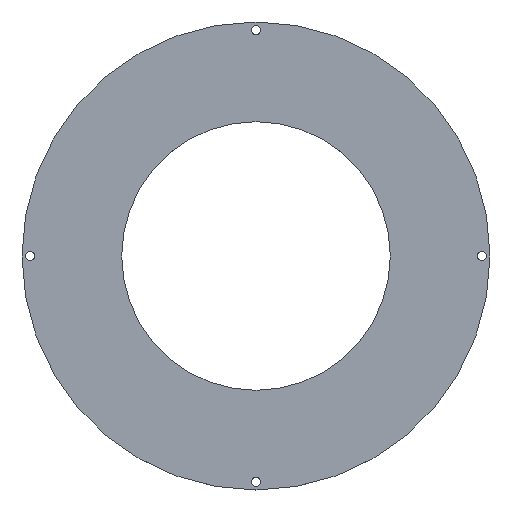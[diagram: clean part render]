
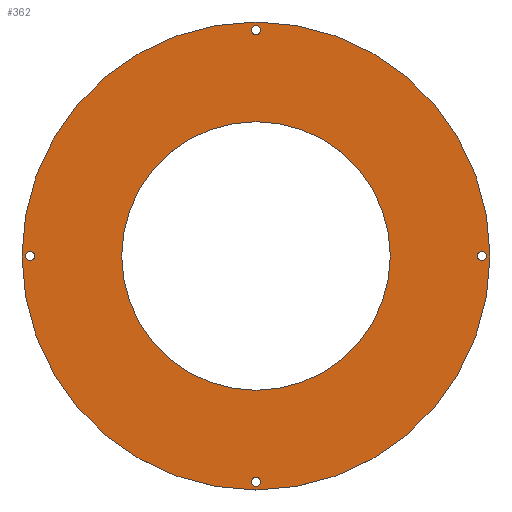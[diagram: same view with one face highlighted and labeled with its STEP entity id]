
A CAD part, top view. The second image highlights one B-rep face of the part: STEP entity #362.
In plain terms, the highlighted planar face has unit normal (0, 0, 1).
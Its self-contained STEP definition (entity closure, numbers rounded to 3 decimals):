
#6 = VERTEX_POINT ( 'NONE', #246 ) ;
#8 = AXIS2_PLACEMENT_3D ( 'NONE', #257, #71, #425 ) ;
#15 = EDGE_CURVE ( 'NONE', #6, #379, #255, .T. ) ;
#16 = CARTESIAN_POINT ( 'NONE',  ( 57.5, 0., 2. ) ) ;
#23 = EDGE_CURVE ( 'NONE', #191, #40, #437, .T. ) ;
#24 = DIRECTION ( 'NONE',  ( 0., -1., 0. ) ) ;
#38 = AXIS2_PLACEMENT_3D ( 'NONE', #494, #97, #250 ) ;
#40 = VERTEX_POINT ( 'NONE', #16 ) ;
#46 = AXIS2_PLACEMENT_3D ( 'NONE', #127, #208, #236 ) ;
#47 = AXIS2_PLACEMENT_3D ( 'NONE', #74, #496, #114 ) ;
#49 = EDGE_LOOP ( 'NONE', ( #492, #462 ) ) ;
#51 = VERTEX_POINT ( 'NONE', #119 ) ;
#53 = DIRECTION ( 'NONE',  ( 0., 1., 0. ) ) ;
#55 = AXIS2_PLACEMENT_3D ( 'NONE', #341, #210, #482 ) ;
#60 = CARTESIAN_POINT ( 'NONE',  ( 56.6, 0., 2. ) ) ;
#62 = CARTESIAN_POINT ( 'NONE',  ( 0., -55.5, 2. ) ) ;
#63 = CARTESIAN_POINT ( 'NONE',  ( 55.5, 0., 2. ) ) ;
#65 = ORIENTED_EDGE ( 'NONE', *, *, #329, .F. ) ;
#67 = DIRECTION ( 'NONE',  ( 1., 0., 0. ) ) ;
#70 = CIRCLE ( 'NONE', #55, 1.1 ) ;
#71 = DIRECTION ( 'NONE',  ( 0., 0., 1. ) ) ;
#74 = CARTESIAN_POINT ( 'NONE',  ( 55.5, 0., 2. ) ) ;
#78 = VERTEX_POINT ( 'NONE', #287 ) ;
#82 = CARTESIAN_POINT ( 'NONE',  ( 0., 55.5, 2. ) ) ;
#83 = EDGE_CURVE ( 'NONE', #51, #194, #470, .T. ) ;
#95 = CARTESIAN_POINT ( 'NONE',  ( -57.5, 0., 2. ) ) ;
#97 = DIRECTION ( 'NONE',  ( 0., 0., 1. ) ) ;
#105 = CARTESIAN_POINT ( 'NONE',  ( 0., 0., 2. ) ) ;
#110 = DIRECTION ( 'NONE',  ( 0., -1., 0. ) ) ;
#114 = DIRECTION ( 'NONE',  ( 1., 0., 0. ) ) ;
#119 = CARTESIAN_POINT ( 'NONE',  ( 54.4, 0., 2. ) ) ;
#121 = EDGE_CURVE ( 'NONE', #316, #456, #418, .T. ) ;
#127 = CARTESIAN_POINT ( 'NONE',  ( 0., 0., 2. ) ) ;
#133 = CIRCLE ( 'NONE', #489, 1.1 ) ;
#136 = ORIENTED_EDGE ( 'NONE', *, *, #230, .F. ) ;
#142 = FACE_BOUND ( 'NONE', #264, .T. ) ;
#144 = CARTESIAN_POINT ( 'NONE',  ( 0., 55.5, 2. ) ) ;
#155 = ORIENTED_EDGE ( 'NONE', *, *, #288, .F. ) ;
#156 = DIRECTION ( 'NONE',  ( 0., 0., 1. ) ) ;
#159 = AXIS2_PLACEMENT_3D ( 'NONE', #62, #491, #24 ) ;
#160 = DIRECTION ( 'NONE',  ( 0., 0., 1. ) ) ;
#163 = EDGE_CURVE ( 'NONE', #40, #191, #193, .T. ) ;
#167 = AXIS2_PLACEMENT_3D ( 'NONE', #82, #160, #53 ) ;
#174 = CIRCLE ( 'NONE', #461, 1.1 ) ;
#176 = AXIS2_PLACEMENT_3D ( 'NONE', #105, #414, #67 ) ;
#177 = DIRECTION ( 'NONE',  ( 0., 0., 1. ) ) ;
#178 = EDGE_LOOP ( 'NONE', ( #424, #155 ) ) ;
#183 = DIRECTION ( 'NONE',  ( 0., 1., 0. ) ) ;
#187 = DIRECTION ( 'NONE',  ( 0., 0., 1. ) ) ;
#191 = VERTEX_POINT ( 'NONE', #95 ) ;
#193 = CIRCLE ( 'NONE', #38, 57.5 ) ;
#194 = VERTEX_POINT ( 'NONE', #60 ) ;
#197 = EDGE_LOOP ( 'NONE', ( #390, #227 ) ) ;
#208 = DIRECTION ( 'NONE',  ( 0., 0., 1. ) ) ;
#210 = DIRECTION ( 'NONE',  ( 0., 0., 1. ) ) ;
#221 = CARTESIAN_POINT ( 'NONE',  ( -33., 0., 2. ) ) ;
#227 = ORIENTED_EDGE ( 'NONE', *, *, #121, .F. ) ;
#230 = EDGE_CURVE ( 'NONE', #379, #6, #174, .T. ) ;
#231 = DIRECTION ( 'NONE',  ( -1., 0., 0. ) ) ;
#236 = DIRECTION ( 'NONE',  ( 1., 0., 0. ) ) ;
#240 = AXIS2_PLACEMENT_3D ( 'NONE', #475, #156, #309 ) ;
#242 = CIRCLE ( 'NONE', #8, 33. ) ;
#246 = CARTESIAN_POINT ( 'NONE',  ( 0., 56.6, 2. ) ) ;
#250 = DIRECTION ( 'NONE',  ( 1., 0., 0. ) ) ;
#255 = CIRCLE ( 'NONE', #167, 1.1 ) ;
#257 = CARTESIAN_POINT ( 'NONE',  ( 0., 0., 2. ) ) ;
#259 = EDGE_CURVE ( 'NONE', #363, #78, #242, .T. ) ;
#261 = ORIENTED_EDGE ( 'NONE', *, *, #83, .F. ) ;
#262 = DIRECTION ( 'NONE',  ( 0., 0., 1. ) ) ;
#263 = CIRCLE ( 'NONE', #47, 1.1 ) ;
#264 = EDGE_LOOP ( 'NONE', ( #480, #136 ) ) ;
#267 = FACE_BOUND ( 'NONE', #333, .T. ) ;
#287 = CARTESIAN_POINT ( 'NONE',  ( 33., 0., 2. ) ) ;
#288 = EDGE_CURVE ( 'NONE', #387, #301, #367, .T. ) ;
#293 = FACE_BOUND ( 'NONE', #49, .T. ) ;
#301 = VERTEX_POINT ( 'NONE', #509 ) ;
#309 = DIRECTION ( 'NONE',  ( 1., 0., 0. ) ) ;
#311 = CARTESIAN_POINT ( 'NONE',  ( -54.4, 0., 2. ) ) ;
#316 = VERTEX_POINT ( 'NONE', #386 ) ;
#324 = DIRECTION ( 'NONE',  ( 0., 0., 1. ) ) ;
#325 = EDGE_CURVE ( 'NONE', #456, #316, #133, .T. ) ;
#329 = EDGE_CURVE ( 'NONE', #194, #51, #263, .T. ) ;
#330 = CARTESIAN_POINT ( 'NONE',  ( -55.5, 0., 2. ) ) ;
#332 = CARTESIAN_POINT ( 'NONE',  ( 0., -55.5, 2. ) ) ;
#333 = EDGE_LOOP ( 'NONE', ( #65, #261 ) ) ;
#341 = CARTESIAN_POINT ( 'NONE',  ( -55.5, 0., 2. ) ) ;
#343 = CARTESIAN_POINT ( 'NONE',  ( 0., -56.6, 2. ) ) ;
#346 = AXIS2_PLACEMENT_3D ( 'NONE', #330, #262, #231 ) ;
#362 = ADVANCED_FACE ( 'NONE', ( #504, #383, #142, #267, #455, #293 ), #454, .T. ) ;
#363 = VERTEX_POINT ( 'NONE', #221 ) ;
#367 = CIRCLE ( 'NONE', #346, 1.1 ) ;
#375 = ORIENTED_EDGE ( 'NONE', *, *, #163, .T. ) ;
#379 = VERTEX_POINT ( 'NONE', #439 ) ;
#383 = FACE_BOUND ( 'NONE', #178, .T. ) ;
#386 = CARTESIAN_POINT ( 'NONE',  ( 0., -54.4, 2. ) ) ;
#387 = VERTEX_POINT ( 'NONE', #311 ) ;
#390 = ORIENTED_EDGE ( 'NONE', *, *, #325, .F. ) ;
#394 = EDGE_LOOP ( 'NONE', ( #452, #375 ) ) ;
#410 = CIRCLE ( 'NONE', #240, 33. ) ;
#414 = DIRECTION ( 'NONE',  ( 0., 0., 1. ) ) ;
#418 = CIRCLE ( 'NONE', #159, 1.1 ) ;
#424 = ORIENTED_EDGE ( 'NONE', *, *, #501, .F. ) ;
#425 = DIRECTION ( 'NONE',  ( 1., 0., 0. ) ) ;
#427 = AXIS2_PLACEMENT_3D ( 'NONE', #63, #177, #451 ) ;
#437 = CIRCLE ( 'NONE', #46, 57.5 ) ;
#439 = CARTESIAN_POINT ( 'NONE',  ( 0., 54.4, 2. ) ) ;
#451 = DIRECTION ( 'NONE',  ( 1., 0., 0. ) ) ;
#452 = ORIENTED_EDGE ( 'NONE', *, *, #23, .T. ) ;
#454 = PLANE ( 'NONE',  #176 ) ;
#455 = FACE_OUTER_BOUND ( 'NONE', #394, .T. ) ;
#456 = VERTEX_POINT ( 'NONE', #343 ) ;
#461 = AXIS2_PLACEMENT_3D ( 'NONE', #144, #187, #183 ) ;
#462 = ORIENTED_EDGE ( 'NONE', *, *, #486, .F. ) ;
#470 = CIRCLE ( 'NONE', #427, 1.1 ) ;
#475 = CARTESIAN_POINT ( 'NONE',  ( 0., 0., 2. ) ) ;
#480 = ORIENTED_EDGE ( 'NONE', *, *, #15, .F. ) ;
#482 = DIRECTION ( 'NONE',  ( -1., 0., 0. ) ) ;
#486 = EDGE_CURVE ( 'NONE', #78, #363, #410, .T. ) ;
#489 = AXIS2_PLACEMENT_3D ( 'NONE', #332, #324, #110 ) ;
#491 = DIRECTION ( 'NONE',  ( 0., 0., 1. ) ) ;
#492 = ORIENTED_EDGE ( 'NONE', *, *, #259, .F. ) ;
#494 = CARTESIAN_POINT ( 'NONE',  ( 0., 0., 2. ) ) ;
#496 = DIRECTION ( 'NONE',  ( 0., 0., 1. ) ) ;
#501 = EDGE_CURVE ( 'NONE', #301, #387, #70, .T. ) ;
#504 = FACE_BOUND ( 'NONE', #197, .T. ) ;
#509 = CARTESIAN_POINT ( 'NONE',  ( -56.6, 0., 2. ) ) ;
